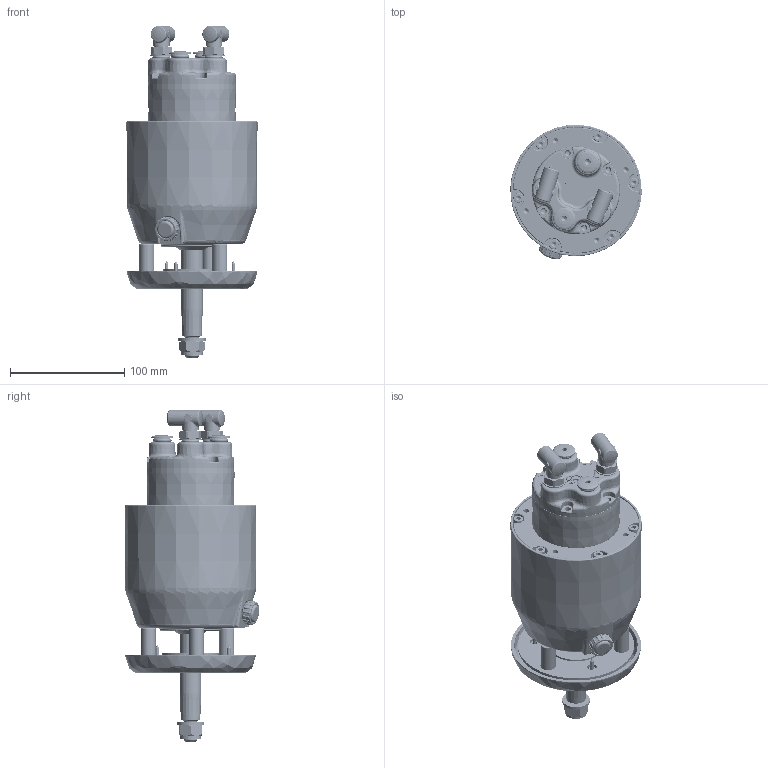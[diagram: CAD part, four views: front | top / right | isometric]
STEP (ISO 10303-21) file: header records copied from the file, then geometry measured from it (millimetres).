
FILE_DESCRIPTION(/* description */ (''),/* implementation_level */ '2;1');
FILE_NAME(/* name */ 'C:\Users\a.zappaterra\Desktop\Documenti Inviati\Per Romeo Giuseppe\Volumi UP REAR 28-33-39-45cc.stp',/* time_stamp */ '2021-11-23T16:19:25+01:00',/* author */ ('a.zappaterra'),/* organization */ (''),/* preprocessor_version */ 'ST-DEVELOPER v18',/* originating_system */ 'Autodesk Inventor 2020',/* authorisation */ '');
FILE_SCHEMA (('AUTOMOTIVE_DESIGN { 1 0 10303 214 3 1 1 }'));
Length unit declared in the file: millimetre
Products named in the file (33): Volumi UP REAR 28-33-39-45cc; 18037; 18036; 18162; 20468; 21448; 19336; 18714; 6674; 11649; 11650; 19331 ; 18774 ; 18347; 18170; 18346; SERBATOIO TILT UP GRANDI 18860; 18354 ; 18853 ; 18355 ; 18719 ; 22647; 22624; 22646; 18348; 18031; 22625; 18688; 28346 ; 28346; 22311c RONDELLA per raccordo orientabile Ultraflex; 22311; 22311c DADO per raccordo orientabile Ultraflex
Assembly tree (46 placements, depth 3):
  Volumi UP REAR 28-33-39-45cc
    18037
    18036
    18162
    20468  x2
    21448  x2
    19336  x6
    18714
    6674  x3
    11649
    11650
    19331   x3
    18774 
    18354   x3
    18347
      18170
      18346
    SERBATOIO TILT UP GRANDI 18860
    18853 
      18355 
      18719 
    22647
      22624
      22646
      18348
      18031
      22625
    18688
    28346   x2
      28346
      22311c RONDELLA per raccordo orientabile Ultraflex
      22311
      22311c DADO per raccordo orientabile Ultraflex
Bounding box: 114.88 x 117.4 x 290.26 mm (x, y, z)
Volume: 672446.9 mm3; surface area: 282362.2 mm2
Topology: 45 solids, 45 shells, 5316 faces, 13406 edges, 8268 vertices
Faces by surface type: plane 1865, cylinder 1207, bspline 987, torus 671, cone 478, sphere 108
Full cylindrical faces by diameter (mm): 1.6 x2, 2 x1, 2.9 x3, 3 x6, 3.242 x3, 3.5 x2, 3.571 x3, 4 x22, 4.134 x14, 4.5 x3, 4.917 x4, 5 x11, 5.2 x4, 5.5 x8, 5.8 x10, 6 x6, 6.5 x4, 6.647 x8, 7 x2, 7.5 x9, 7.6 x3, 8 x6, 8.1 x1, 8.25 x1, 8.5 x9, 9 x4, 9.8 x2, 10 x1, 10.106 x1, 10.25 x1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
Entity records: 182987 total; most frequent: CARTESIAN_POINT 68781, ORIENTED_EDGE 24584, DIRECTION 21951, EDGE_CURVE 12292, AXIS2_PLACEMENT_3D 8374, VERTEX_POINT 7645, EDGE_LOOP 5429, LINE 5203
